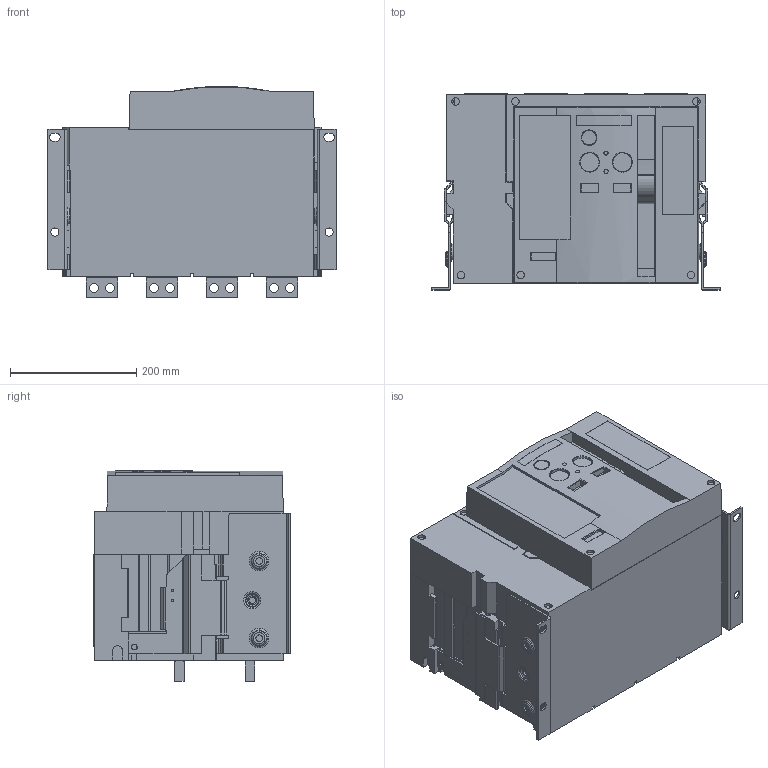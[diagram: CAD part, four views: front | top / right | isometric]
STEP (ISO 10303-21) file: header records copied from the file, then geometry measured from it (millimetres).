
FILE_DESCRIPTION (( 'STEP AP214' ), '1' );
FILE_NAME ('OptiMat A-S2-B-630-1600-4P-F-H.STEP', '2023-09-19T10:47:40', ( '' ), ( '' ), 'SwSTEP 2.0', 'SolidWorks 2018', '' );
FILE_SCHEMA (( 'AUTOMOTIVE_DESIGN' ));
Length unit declared in the file: millimetre
Products named in the file (1): OptiMat A-S2-B-630-1600-4P-F-H
Bounding box: 456 x 310.5 x 333.81 mm (x, y, z)
Volume: 31426496.3 mm3; surface area: 1202847.1 mm2
Topology: 1 solids, 11 shells, 2234 faces, 5944 edges, 3920 vertices
Faces by surface type: plane 1329, cylinder 719, cone 119, torus 59, bspline 8
Entity records: 97364 total; most frequent: CARTESIAN_POINT 17604, DIRECTION 11903, ORIENTED_EDGE 11884, EDGE_CURVE 5942, VECTOR 3999, LINE 3999, AXIS2_PLACEMENT_3D 3952, VERTEX_POINT 3920
